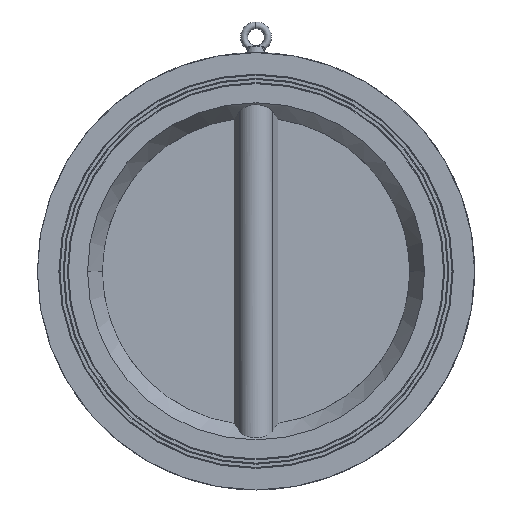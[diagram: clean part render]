
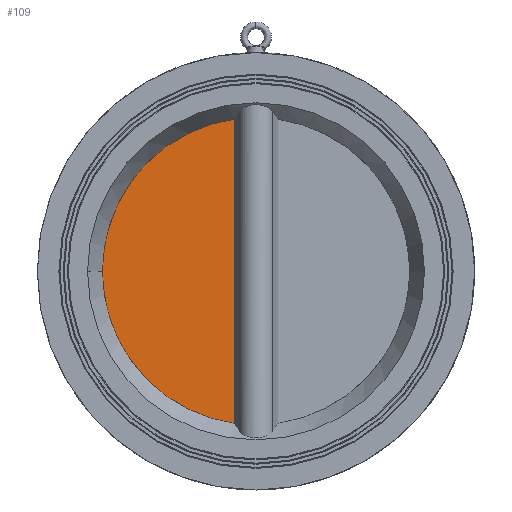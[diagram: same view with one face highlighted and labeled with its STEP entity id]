
A CAD part, front view. The second image highlights one B-rep face of the part: STEP entity #109.
In plain terms, the highlighted planar face has unit normal (0, -1, 0).
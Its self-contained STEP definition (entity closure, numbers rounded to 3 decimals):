
#109 = ADVANCED_FACE ( 'NONE', ( #6044 ), #8356, .T. ) ;
#117 = VERTEX_POINT ( 'NONE', #1083 ) ;
#1083 = CARTESIAN_POINT ( 'NONE',  ( -27., 5., 217.329 ) ) ;
#1707 = DIRECTION ( 'NONE',  ( 0., -1., 0. ) ) ;
#2138 = VERTEX_POINT ( 'NONE', #7633 ) ;
#2158 = AXIS2_PLACEMENT_3D ( 'NONE', #9724, #1707, #2500 ) ;
#2500 = DIRECTION ( 'NONE',  ( 0., 0., -1. ) ) ;
#2989 = ORIENTED_EDGE ( 'NONE', *, *, #3830, .T. ) ;
#3557 = CARTESIAN_POINT ( 'NONE',  ( 0., 5., 0. ) ) ;
#3561 = LINE ( 'NONE', #5832, #7527 ) ;
#3625 = EDGE_CURVE ( 'NONE', #2138, #117, #3561, .T. ) ;
#3830 = EDGE_CURVE ( 'NONE', #117, #2138, #6686, .T. ) ;
#3834 = ORIENTED_EDGE ( 'NONE', *, *, #3625, .T. ) ;
#4656 = AXIS2_PLACEMENT_3D ( 'NONE', #3557, #6775, #9256 ) ;
#5832 = CARTESIAN_POINT ( 'NONE',  ( -27., 5., 217.329 ) ) ;
#6044 = FACE_OUTER_BOUND ( 'NONE', #10219, .T. ) ;
#6686 = CIRCLE ( 'NONE', #2158, 219. ) ;
#6775 = DIRECTION ( 'NONE',  ( 0., -1., 0. ) ) ;
#7527 = VECTOR ( 'NONE', #9050, 1000. ) ;
#7633 = CARTESIAN_POINT ( 'NONE',  ( -27., 5., -217.329 ) ) ;
#8356 = PLANE ( 'NONE',  #4656 ) ;
#9050 = DIRECTION ( 'NONE',  ( 0., 0., 1. ) ) ;
#9256 = DIRECTION ( 'NONE',  ( 0., 0., -1. ) ) ;
#9724 = CARTESIAN_POINT ( 'NONE',  ( 0., 5., 0. ) ) ;
#10219 = EDGE_LOOP ( 'NONE', ( #2989, #3834 ) ) ;
